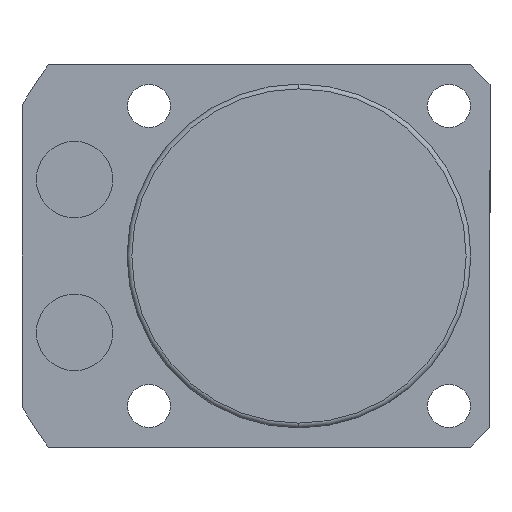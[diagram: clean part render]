
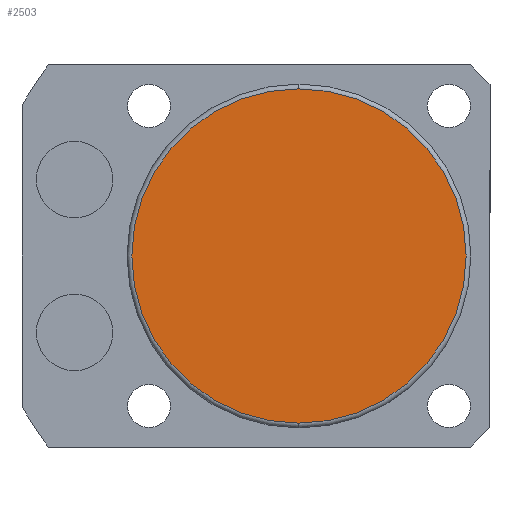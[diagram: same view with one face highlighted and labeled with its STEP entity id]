
A CAD part, front view. The second image highlights one B-rep face of the part: STEP entity #2503.
In plain terms, the highlighted planar face has unit normal (0, -1, 0).
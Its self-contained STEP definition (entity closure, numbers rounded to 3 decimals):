
#8 = CARTESIAN_POINT ( 'NONE',  ( 0., -70.5, 0. ) ) ;
#172 = DIRECTION ( 'NONE',  ( 0., -1., 0. ) ) ;
#205 = ORIENTED_EDGE ( 'NONE', *, *, #326, .T. ) ;
#313 = DIRECTION ( 'NONE',  ( 0., 0., -1. ) ) ;
#326 = EDGE_CURVE ( 'NONE', #2028, #1102, #1818, .T. ) ;
#397 = AXIS2_PLACEMENT_3D ( 'NONE', #2430, #172, #1198 ) ;
#593 = EDGE_LOOP ( 'NONE', ( #205, #1475 ) ) ;
#1047 = CARTESIAN_POINT ( 'NONE',  ( 0., -70.5, 17.5 ) ) ;
#1078 = AXIS2_PLACEMENT_3D ( 'NONE', #8, #2102, #2075 ) ;
#1102 = VERTEX_POINT ( 'NONE', #1047 ) ;
#1198 = DIRECTION ( 'NONE',  ( 0., 0., -1. ) ) ;
#1475 = ORIENTED_EDGE ( 'NONE', *, *, #2138, .T. ) ;
#1481 = PLANE ( 'NONE',  #1078 ) ;
#1593 = FACE_OUTER_BOUND ( 'NONE', #593, .T. ) ;
#1757 = CIRCLE ( 'NONE', #1897, 17.5 ) ;
#1818 = CIRCLE ( 'NONE', #397, 17.5 ) ;
#1897 = AXIS2_PLACEMENT_3D ( 'NONE', #1938, #2380, #313 ) ;
#1938 = CARTESIAN_POINT ( 'NONE',  ( 0., -70.5, 0. ) ) ;
#2028 = VERTEX_POINT ( 'NONE', #2446 ) ;
#2075 = DIRECTION ( 'NONE',  ( 0., 0., -1. ) ) ;
#2102 = DIRECTION ( 'NONE',  ( 0., -1., 0. ) ) ;
#2138 = EDGE_CURVE ( 'NONE', #1102, #2028, #1757, .T. ) ;
#2380 = DIRECTION ( 'NONE',  ( 0., -1., 0. ) ) ;
#2430 = CARTESIAN_POINT ( 'NONE',  ( 0., -70.5, 0. ) ) ;
#2446 = CARTESIAN_POINT ( 'NONE',  ( 0., -70.5, -17.5 ) ) ;
#2503 = ADVANCED_FACE ( 'NONE', ( #1593 ), #1481, .T. ) ;
